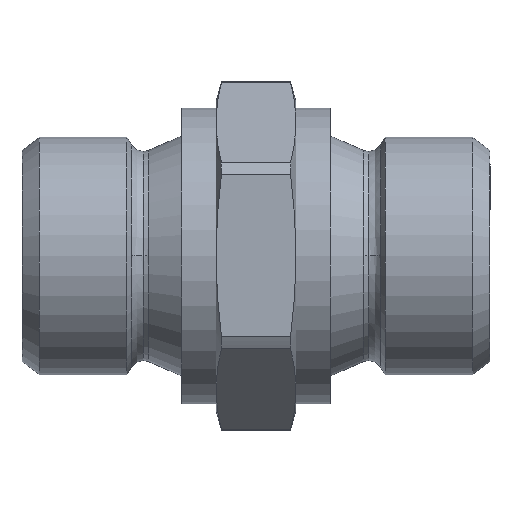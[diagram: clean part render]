
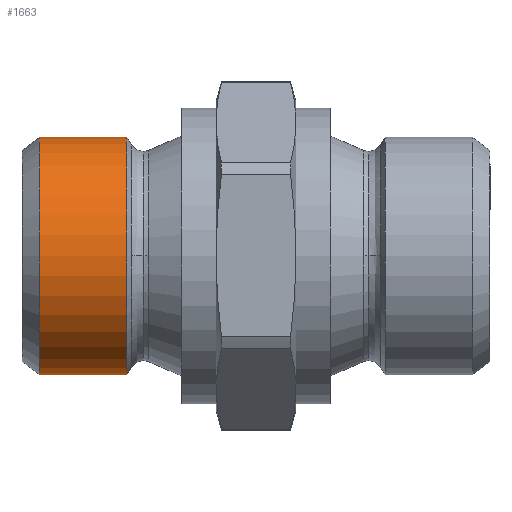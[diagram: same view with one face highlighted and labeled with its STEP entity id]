
A CAD part, top view. The second image highlights one B-rep face of the part: STEP entity #1663.
In plain terms, the highlighted cylindrical face has radius 10.405 mm (diameter 20.81 mm), a partial arc.
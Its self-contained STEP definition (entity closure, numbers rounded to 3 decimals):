
#997=CARTESIAN_POINT('',(0.,-10.405,18.967));
#998=VERTEX_POINT('',#997);
#999=CARTESIAN_POINT('',(0.,-10.405,11.305));
#1000=VERTEX_POINT('',#999);
#1001=CARTESIAN_POINT('',(0.,-10.405,18.967));
#1002=DIRECTION('',(0.0,0.0,-1.0));
#1003=VECTOR('',#1002,7.663);
#1004=LINE('',#1001,#1003);
#1005=EDGE_CURVE('',#998,#1000,#1004,.T.);
#1007=CARTESIAN_POINT('',(0.,10.405,18.967));
#1008=VERTEX_POINT('',#1007);
#1016=CARTESIAN_POINT('',(0.,10.405,11.305));
#1017=VERTEX_POINT('',#1016);
#1018=CARTESIAN_POINT('',(0.,10.405,11.305));
#1019=DIRECTION('',(0.0,0.0,1.0));
#1020=VECTOR('',#1019,7.663);
#1021=LINE('',#1018,#1020);
#1022=EDGE_CURVE('',#1017,#1008,#1021,.T.);
#1461=CARTESIAN_POINT('',(0.,0.,11.305));
#1462=DIRECTION('',(0.0,0.0,-1.0));
#1463=DIRECTION('',(0.0,-1.0,0.0));
#1464=AXIS2_PLACEMENT_3D('',#1461,#1462,#1463);
#1465=CIRCLE('',#1464,10.405);
#1466=EDGE_CURVE('',#1017,#1000,#1465,.T.);
#1640=CARTESIAN_POINT('',(0.,0.,18.967));
#1641=DIRECTION('',(0.0,0.0,-1.0));
#1642=DIRECTION('',(0.0,-1.0,0.0));
#1643=AXIS2_PLACEMENT_3D('',#1640,#1641,#1642);
#1644=CIRCLE('',#1643,10.405);
#1645=EDGE_CURVE('',#1008,#998,#1644,.T.);
#1652=CARTESIAN_POINT('',(0.,0.,15.136));
#1653=DIRECTION('',(0.,0.,-1.0));
#1654=DIRECTION('',(0.0,-1.0,0.0));
#1655=AXIS2_PLACEMENT_3D('',#1652,#1653,#1654);
#1656=CYLINDRICAL_SURFACE('',#1655,10.405);
#1657=ORIENTED_EDGE('',*,*,#1005,.T.);
#1658=ORIENTED_EDGE('',*,*,#1466,.F.);
#1659=ORIENTED_EDGE('',*,*,#1022,.T.);
#1660=ORIENTED_EDGE('',*,*,#1645,.T.);
#1661=EDGE_LOOP('',(#1657,#1658,#1659,#1660));
#1662=FACE_OUTER_BOUND('',#1661,.T.);
#1663=ADVANCED_FACE('',(#1662),#1656,.T.);
